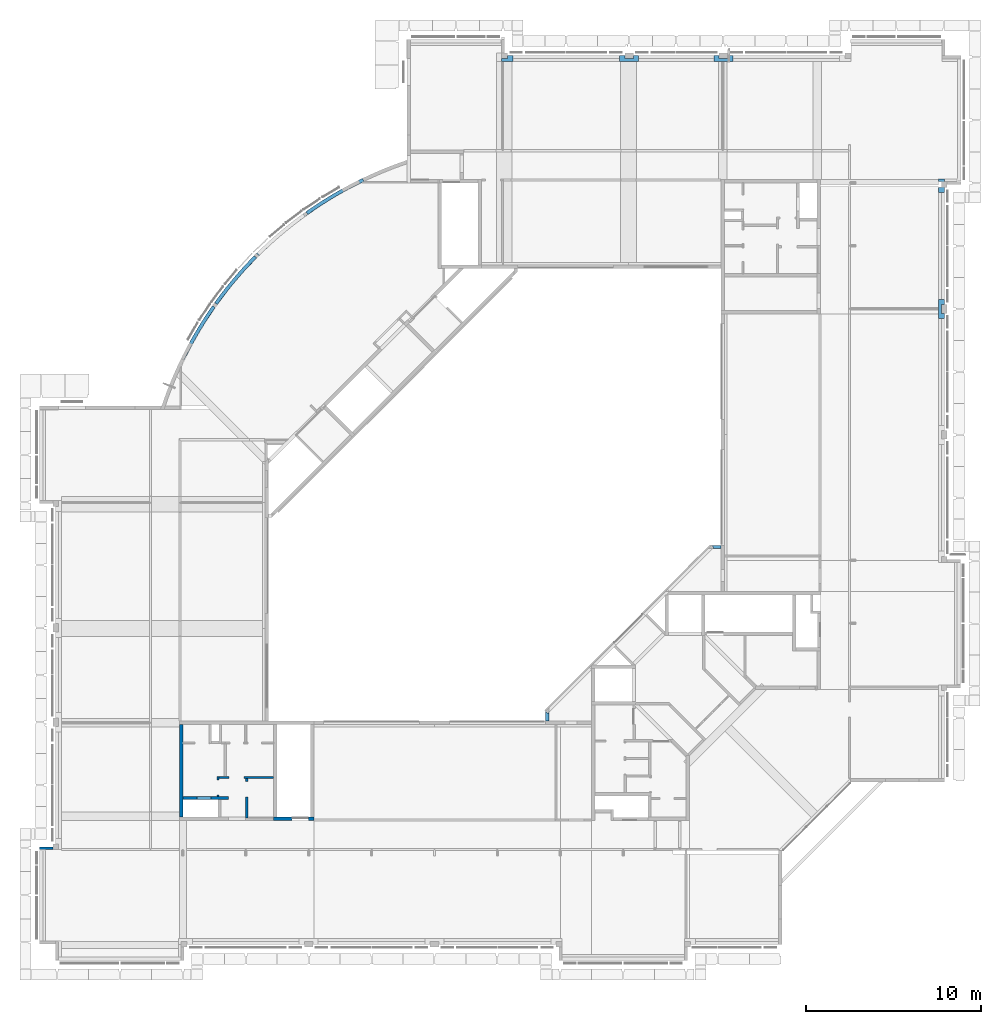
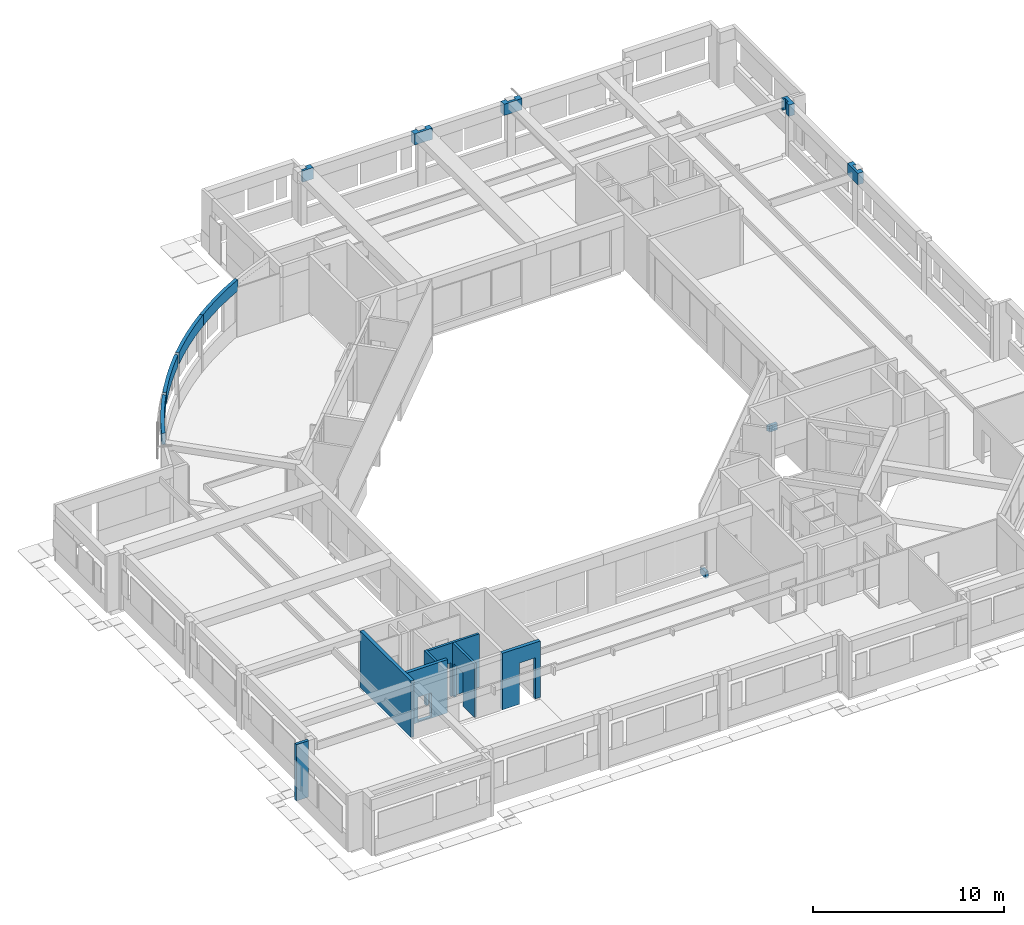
# One storey, part 20 of 26: 11 beams, 7 walls.
"""IFC4X3_ADD2 building model written with IfcOpenShell, lengths in millimetres."""

from ifc_helpers import new_model, si_unit, direction, frame, origin_with_axes, place, context, subcontext, project, spatial, polygons, source, transform, mapped, material, type_object, type_shapes, element, save


model = new_model("IFC4X3_ADD2")

# Units and contexts
model_context = context("Model", 3, precision=1e-05, world=origin_with_axes(), true_north=direction((0.0, 1.0)))
body_context = subcontext(model_context, "Body", "Model", "MODEL_VIEW")
ifc_project = project(units=[si_unit("LENGTHUNIT", "METRE", prefix="MILLI"), si_unit("AREAUNIT", "SQUARE_METRE"), si_unit("VOLUMEUNIT", "CUBIC_METRE"), si_unit("PLANEANGLEUNIT", "RADIAN"), si_unit("TIMEUNIT", "SECOND"), si_unit("MASSUNIT", "GRAM")], contexts=[model_context])

# Site, building, storey
site_placement = place(None, origin_with_axes())
site = spatial("IfcSite", under=ifc_project, at=site_placement, Name="Site", CompositionType="ELEMENT")
building_placement = place(site_placement, origin_with_axes())
building = spatial("IfcBuilding", under=site, at=building_placement, Name="IFC Building Story")
storey_placement = place(building_placement, frame((0.0, 0.0, 7200.0), z_axis=(0.0, 0.0, 1.0), x_axis=(1.0, 0.0, 0.0)))
storey = spatial("IfcBuildingStorey", under=building, at=storey_placement, Name="020", Elevation=7200.0)

# Beams
ifc_material = material(Name="BB_Beton_Bestaand")
beam_type_1 = type_object("IfcBeamType", Name="BB_XX_Betonbalk_ rechthoekig_ center-center_SFB_340 x 720 mm185", PredefinedType="NOTDEFINED")
shared_shape_1 = source(origin_with_axes(), body_context, "Body", "Tessellation", [
    polygons([(640.000000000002, 0.0, 0.0), (640.000000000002, 8.66293703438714e-12, -720.000000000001), (640.000000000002, 340.000000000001, -720.000000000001), (640.000000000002, 340.000000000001, 0.0), (0.0, 8.66293703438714e-12, -720.000000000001), (0.0, 0.0, 0.0), (0.0, 149.999999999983, 0.0), (0.0, 149.999999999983, -720.000000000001), (339.999999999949, 149.999999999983, -720.000000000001), (339.999999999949, 340.000000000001, -720.000000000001), (339.999999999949, 340.000000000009, 0.0), (339.999999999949, 149.999999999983, 0.0)], [[[1, 2, 3, 4]], [[5, 6, 7, 8]], [[2, 1, 6, 5]], [[9, 10, 3]], [[9, 3, 2]], [[2, 5, 8]], [[2, 8, 9]], [[4, 3, 10, 11]], [[12, 7, 6]], [[12, 6, 1]], [[1, 4, 11]], [[1, 11, 12]], [[12, 9, 8, 7]], [[9, 12, 11, 10]]]),
])
type_shapes(beam_type_1, [shared_shape_1])
beam_1_placement = place(storey_placement, frame((-25260.0, 50455.0, 3400.0), z_axis=(0.0, 0.0, 1.0), x_axis=(1.0, 0.0, 0.0)))
element("IfcBeam", 1, at=beam_1_placement, inside=storey, type_object=beam_type_1, material=ifc_material, Name="BB_XX_Betonbalk, rechthoekig, center-center_SFB:340 x 720 mm", ObjectType="BB_XX_Betonbalk, rechthoekig, center-center_SFB:340 x 720 mm", PredefinedType="BEAM", context=body_context, shape_type="MappedRepresentation", body=[
    mapped(shared_shape_1, transform((0.0, 0.0, 0.0))),
])
beam_type_2 = type_object("IfcBeamType", Name="BB_XX_Betonbalk_ rechthoekig_ center-center_SFB_200 x 720 mm29", PredefinedType="NOTDEFINED")
shared_shape_2 = source(origin_with_axes(), body_context, "Body", "Tessellation", [
    polygons([(181.269823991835, 1.59527223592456, 389.999999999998), (181.269823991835, 1.59527223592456, 720.000000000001), (172.286096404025, 5.987610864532, 720.000000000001), (1.5952722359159, 89.442044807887, 720.000000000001), (1.5952722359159, 89.442044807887, 0.0), (181.269823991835, 1.59527223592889, 0.0), (1958.34205439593, 3009.29598788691, 0.0), (1794.70737947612, 3124.29030585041, 0.0), (1794.70737947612, 3124.29030585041, 720.000000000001), (1950.16032064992, 3015.0457037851, 720.000000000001), (1958.34205439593, 3009.29598788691, 720.000000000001), (1958.34205439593, 3009.29598788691, 389.999999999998), (1509.54200965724, 2708.62250681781, 0.0), (1509.54200965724, 2708.62250681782, 720.000000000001), (1233.82007146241, 2286.63148784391, 0.0), (1233.82007146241, 2286.63148784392, 720.000000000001), (967.681717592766, 1858.53175192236, 0.0), (967.681717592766, 1858.53175192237, 720.000000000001), (711.262229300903, 1424.54090717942, 0.0), (711.262229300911, 1424.54090717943, 720.000000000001), (464.691947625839, 984.879556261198, 0.0), (464.691947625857, 984.879556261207, 720.000000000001), (228.096207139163, 539.771184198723, 0.0), (228.096207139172, 539.771184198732, 720.000000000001), (1675.72756658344, 2597.34645068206, 0.0), (1402.47203632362, 2179.13025646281, 0.0), (1138.71436261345, 1754.85998943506, 0.0), (884.588616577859, 1324.751311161, 0.0), (640.223973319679, 889.022850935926, 0.0), (405.744646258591, 447.896094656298, 0.0), (1675.72756658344, 2597.34645068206, 720.000000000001), (1402.47203632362, 2179.13025646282, 720.000000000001), (1138.71436261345, 1754.85998943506, 720.000000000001), (884.588616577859, 1324.751311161, 720.000000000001), (640.223973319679, 889.022850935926, 720.000000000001), (405.744646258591, 447.896094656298, 720.000000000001)], [[[3, 4, 1]], [[1, 2, 3]], [[4, 5, 6]], [[4, 6, 1]], [[12, 7, 10]], [[10, 11, 12]], [[7, 8, 9]], [[7, 9, 10]], [[9, 8, 13, 14]], [[14, 13, 15, 16]], [[16, 15, 17, 18]], [[17, 19, 20, 18]], [[20, 19, 21, 22]], [[22, 21, 23, 24]], [[24, 23, 5, 4]], [[13, 8, 7]], [[13, 7, 25]], [[25, 26, 15]], [[25, 15, 13]], [[26, 27, 17]], [[26, 17, 15]], [[27, 28, 19]], [[27, 19, 17]], [[28, 29, 21]], [[28, 21, 19]], [[29, 30, 23]], [[29, 23, 21]], [[30, 6, 5]], [[30, 5, 23]], [[25, 7, 12]], [[31, 12, 11]], [[26, 25, 12]], [[27, 26, 32, 33]], [[31, 32, 12]], [[32, 26, 12]], [[33, 34, 28, 27]], [[29, 28, 34, 35]], [[30, 29, 1]], [[6, 30, 1]], [[2, 1, 36]], [[35, 36, 1]], [[35, 1, 29]], [[3, 2, 36]], [[36, 24, 4]], [[36, 4, 3]], [[10, 9, 14]], [[10, 14, 31]], [[31, 11, 10]], [[14, 16, 32]], [[14, 32, 31]], [[16, 18, 33]], [[16, 33, 32]], [[18, 20, 34]], [[18, 34, 33]], [[20, 22, 35]], [[20, 35, 34]], [[22, 24, 36]], [[22, 36, 35]]]),
])
type_shapes(beam_type_2, [shared_shape_2])
beam_2_placement = place(storey_placement, frame((-43604.4213722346, 33349.2800897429, 2680.0), z_axis=(0.0, 0.0, 1.0), x_axis=(1.0, 0.0, 0.0)))
element("IfcBeam", 2, at=beam_2_placement, inside=storey, type_object=beam_type_2, material=ifc_material, Name="BB_XX_Betonbalk, rechthoekig, center-center_SFB:200 x 720 mm", ObjectType="BB_XX_Betonbalk, rechthoekig, center-center_SFB:200 x 720 mm", PredefinedType="BEAM", context=body_context, shape_type="MappedRepresentation", body=[
    mapped(shared_shape_2, transform((0.0, 0.0, 0.0))),
])
beam_type_3 = type_object("IfcBeamType", Name="BB_XX_Betonbalk_ rechthoekig_ center-center_SFB_200 x 720 mm31", PredefinedType="NOTDEFINED")
shared_shape_3 = source(origin_with_axes(), body_context, "Body", "Tessellation", [
    polygons([(164.132312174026, 1.59527223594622, 390.000000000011), (164.132312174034, 1.59527223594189, 720.00000000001), (156.005460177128, 7.42230206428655, 720.00000000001), (1.59527223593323, 118.135868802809, 720.000000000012), (1.59527223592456, 118.135868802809, 1.29944055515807e-11), (164.132312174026, 1.59527223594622, 1.08286712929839e-11), (2410.84389704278, 2664.89108166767, 0.0), (2268.58570480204, 2805.47062050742, 0.0), (2268.58570480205, 2805.47062050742, 720.000000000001), (2403.73098743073, 2671.92005860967, 720.000000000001), (2410.84389704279, 2664.89108166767, 720.000000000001), (2410.84389704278, 2664.89108166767, 390.000000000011), (1919.23385026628, 2443.90491202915, 2.16573425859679e-12), (1919.23385026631, 2443.90491202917, 720.000000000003), (1578.10034509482, 2074.57523347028, 4.33146851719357e-12), (1578.10034509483, 2074.57523347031, 720.000000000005), (1245.35768893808, 1697.66834233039, 6.49720277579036e-12), (1245.3576889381, 1697.66834233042, 720.000000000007), (921.174138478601, 1313.37482764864, 8.66293703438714e-12), (921.174138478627, 1313.37482764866, 720.00000000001), (605.713622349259, 921.88901362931, 1.08286712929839e-11), (605.713622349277, 921.889013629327, 720.00000000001), (299.135658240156, 523.408861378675, 1.08286712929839e-11), (299.135658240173, 523.408861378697, 720.000000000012), (2064.61709012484, 2306.55967706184, 2.16573425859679e-12), (1726.53511719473, 1940.53375320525, 2.16573425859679e-12), (1396.76893484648, 1566.99839700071, 4.33146851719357e-12), (1075.48529466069, 1186.14249261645, 6.49720277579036e-12), (762.846658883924, 798.158625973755, 8.66293703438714e-12), (459.01111827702, 403.242987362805, 8.66293703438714e-12), (2064.61709012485, 2306.55967706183, 720.000000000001), (1726.53511719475, 1940.53375320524, 720.000000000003), (1396.7689348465, 1566.99839700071, 720.000000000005), (1075.48529466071, 1186.14249261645, 720.000000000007), (762.846658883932, 798.158625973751, 720.00000000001), (459.011118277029, 403.242987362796, 720.00000000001)], [[[3, 4, 1]], [[1, 2, 3]], [[4, 5, 6]], [[4, 6, 1]], [[12, 7, 10]], [[10, 11, 12]], [[7, 8, 9]], [[7, 9, 10]], [[9, 8, 13, 14]], [[14, 13, 15, 16]], [[16, 15, 17, 18]], [[17, 19, 20, 18]], [[20, 19, 21, 22]], [[22, 21, 23, 24]], [[24, 23, 5, 4]], [[13, 8, 7]], [[13, 7, 25]], [[25, 26, 15]], [[25, 15, 13]], [[26, 27, 17]], [[26, 17, 15]], [[27, 28, 19]], [[27, 19, 17]], [[28, 29, 21]], [[28, 21, 19]], [[29, 30, 23]], [[29, 23, 21]], [[30, 6, 5]], [[30, 5, 23]], [[25, 7, 12]], [[31, 12, 11]], [[26, 25, 12]], [[27, 26, 32, 33]], [[31, 32, 12]], [[32, 26, 12]], [[33, 34, 28, 27]], [[29, 28, 34, 35]], [[30, 29, 1]], [[6, 30, 1]], [[2, 1, 36]], [[35, 36, 1]], [[35, 1, 29]], [[3, 2, 36]], [[36, 24, 4]], [[36, 4, 3]], [[10, 9, 14]], [[10, 14, 31]], [[31, 11, 10]], [[14, 16, 32]], [[14, 32, 31]], [[16, 18, 33]], [[16, 33, 32]], [[18, 20, 34]], [[18, 34, 33]], [[20, 22, 35]], [[20, 35, 34]], [[22, 24, 36]], [[22, 36, 35]]]),
])
type_shapes(beam_type_3, [shared_shape_3])
beam_3_placement = place(storey_placement, frame((-41688.6036734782, 36528.2943880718, 2680.0), z_axis=(0.0, 0.0, 1.0), x_axis=(1.0, 0.0, 0.0)))
element("IfcBeam", 3, at=beam_3_placement, inside=storey, type_object=beam_type_3, material=ifc_material, Name="BB_XX_Betonbalk, rechthoekig, center-center_SFB:200 x 720 mm", ObjectType="BB_XX_Betonbalk, rechthoekig, center-center_SFB:200 x 720 mm", PredefinedType="BEAM", context=body_context, shape_type="MappedRepresentation", body=[
    mapped(shared_shape_3, transform((0.0, 0.0, 0.0))),
])
beam_type_4 = type_object("IfcBeamType", Name="BB_XX_Betonbalk_ rechthoekig_ center-center_SFB_200 x 720 mm33", PredefinedType="NOTDEFINED")
shared_shape_4 = source(origin_with_axes(), body_context, "Body", "Tessellation", [
    polygons([(142.580843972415, 1.59527223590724, 719.999999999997), (1.5952722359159, 143.451074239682, 719.999999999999), (1.5952722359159, 143.451074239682, 0.0), (142.580843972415, 1.5952722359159, -2.16573425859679e-12), (3053.08904093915, 2436.18152332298, 0.0), (2938.37375366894, 2600.01193218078, 0.0), (2938.37375366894, 2600.01193218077, 720.000000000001), (3053.08904093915, 2436.18152332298, 720.000000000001), (2165.34917454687, 2033.66386586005, 0.0), (1417.30317354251, 1434.71118614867, 0.0), (1417.3031735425, 1434.71118614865, 720.000000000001), (2165.34917454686, 2033.66386586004, 720.000000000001), (695.609945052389, 804.254196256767, 0.0), (695.60994505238, 804.25419625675, 719.999999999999), (482.975055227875, 332.72671370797, -2.16573425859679e-12), (2667.02674216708, 2159.6455364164, -2.16573425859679e-12), (2286.97937750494, 1874.89959491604, -2.16573425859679e-12), (1913.12150805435, 1582.07448663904, -2.16573425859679e-12), (1545.62485199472, 1281.30471027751, -2.16573425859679e-12), (1184.65820571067, 972.728413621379, -2.16573425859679e-12), (830.387366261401, 656.487330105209, -2.16573425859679e-12), (2667.02674216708, 2159.6455364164, 719.999999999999), (2286.97937750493, 1874.89959491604, 719.999999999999), (1913.12150805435, 1582.07448663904, 719.999999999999), (1545.62485199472, 1281.30471027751, 719.999999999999), (1184.65820571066, 972.728413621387, 719.999999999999), (830.387366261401, 656.487330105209, 719.999999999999), (482.975055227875, 332.726713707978, 719.999999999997)], [[[1, 2, 3, 4]], [[5, 6, 7, 8]], [[9, 10, 11, 12]], [[9, 12, 7, 6]], [[13, 3, 2, 14]], [[13, 14, 11, 10]], [[15, 4, 3]], [[15, 3, 13]], [[16, 17, 9]], [[9, 6, 5]], [[9, 5, 16]], [[18, 19, 10]], [[18, 10, 9]], [[9, 17, 18]], [[21, 15, 13]], [[13, 10, 20]], [[13, 20, 21]], [[10, 19, 20]], [[17, 16, 22, 23]], [[18, 17, 23, 24]], [[19, 18, 24, 25]], [[8, 22, 16, 5]], [[21, 20, 26, 27]], [[15, 21, 27, 28]], [[4, 15, 28, 1]], [[26, 20, 19, 25]], [[22, 8, 7]], [[7, 12, 23]], [[7, 23, 22]], [[12, 24, 23]], [[12, 11, 25]], [[12, 25, 24]], [[11, 26, 25]], [[11, 14, 27]], [[11, 27, 26]], [[14, 28, 27]], [[14, 2, 1]], [[14, 1, 28]]]),
])
type_shapes(beam_type_4, [shared_shape_4])
beam_4_placement = place(storey_placement, frame((-39279.3458620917, 39332.9885293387, 2680.0), z_axis=(0.0, 0.0, 1.0), x_axis=(1.0, 0.0, 0.0)))
element("IfcBeam", 4, at=beam_4_placement, inside=storey, type_object=beam_type_4, material=ifc_material, Name="BB_XX_Betonbalk, rechthoekig, center-center_SFB:200 x 720 mm", ObjectType="BB_XX_Betonbalk, rechthoekig, center-center_SFB:200 x 720 mm", PredefinedType="BEAM", context=body_context, shape_type="MappedRepresentation", body=[
    mapped(shared_shape_4, transform((0.0, 0.0, 0.0))),
])
beam_type_5 = type_object("IfcBeamType", Name="BB_XX_Betonbalk_ rechthoekig_ center-center_SFB_200 x 720 mm35", PredefinedType="NOTDEFINED")
shared_shape_5 = source(origin_with_axes(), body_context, "Body", "Tessellation", [
    polygons([(117.385991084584, 1.59527223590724, 390.0), (117.385991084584, 1.59527223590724, 720.000000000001), (111.596455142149, 9.7488771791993, 720.000000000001), (1.5952722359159, 164.66737110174, 720.000000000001), (1.5952722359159, 164.66737110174, 0.0), (117.385991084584, 1.59527223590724, 0.0), (3324.56778453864, 1895.00280735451, 0.0), (3237.72512985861, 2075.16482701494, 0.0), (3237.72512985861, 2075.16482701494, 720.000000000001), (3320.22565180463, 1904.01090833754, 720.000000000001), (3324.56778453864, 1895.00280735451, 720.000000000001), (3324.56778453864, 1895.00280735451, 390.0), (2399.25531035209, 1649.0400436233, 0.0), (1579.44916103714, 1188.0282793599, 0.0), (1579.44916103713, 1188.02827935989, 720.000000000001), (2399.25531035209, 1649.04004362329, 720.000000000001), (779.757430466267, 692.945351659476, 0.0), (779.757430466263, 692.945351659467, 720.000000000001), (500.233301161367, 267.427171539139, 0.0), (2906.86212509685, 1688.21633876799, 0.0), (2493.59830624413, 1472.68982636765, 0.0), (2084.95917858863, 1248.51863091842, 0.0), (1681.12554652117, 1015.80193806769, 0.0), (1282.27608821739, 774.642714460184, 0.0), (888.587276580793, 525.147662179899, 0.0), (2906.86212509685, 1688.21633876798, 720.000000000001), (2493.59830624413, 1472.68982636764, 720.000000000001), (2084.95917858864, 1248.51863091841, 720.000000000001), (1681.12554652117, 1015.80193806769, 720.000000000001), (1282.27608821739, 774.642714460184, 720.000000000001), (888.587276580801, 525.147662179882, 720.000000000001), (500.233301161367, 267.427171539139, 720.000000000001)], [[[3, 4, 1]], [[1, 2, 3]], [[4, 5, 6]], [[4, 6, 1]], [[12, 7, 10]], [[10, 11, 12]], [[7, 8, 9]], [[7, 9, 10]], [[13, 14, 15, 16]], [[13, 16, 9, 8]], [[17, 5, 4, 18]], [[17, 18, 15, 14]], [[19, 6, 5]], [[19, 5, 17]], [[20, 21, 13]], [[20, 13, 8]], [[8, 7, 20]], [[22, 23, 14]], [[14, 13, 21]], [[14, 21, 22]], [[25, 19, 17]], [[17, 24, 25]], [[17, 14, 23]], [[17, 23, 24]], [[20, 7, 12]], [[26, 12, 11]], [[22, 21, 27, 28]], [[12, 21, 20]], [[23, 22, 28, 29]], [[26, 27, 12]], [[27, 21, 12]], [[25, 24, 30, 31]], [[1, 6, 19]], [[32, 2, 1]], [[25, 1, 19]], [[1, 25, 31]], [[30, 24, 23, 29]], [[31, 32, 1]], [[10, 9, 16]], [[10, 16, 26]], [[26, 11, 10]], [[16, 27, 26]], [[16, 28, 27]], [[16, 29, 28]], [[16, 30, 29]], [[16, 31, 30]], [[16, 32, 31]], [[16, 3, 32]], [[3, 2, 32]], [[18, 4, 3]], [[3, 15, 18]], [[3, 16, 15]]]),
])
type_shapes(beam_type_5, [shared_shape_5])
beam_5_placement = place(storey_placement, frame((-36462.7908339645, 41683.5609415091, 2680.0), z_axis=(0.0, 0.0, 1.0), x_axis=(1.0, 0.0, 0.0)))
element("IfcBeam", 5, at=beam_5_placement, inside=storey, type_object=beam_type_5, material=ifc_material, Name="BB_XX_Betonbalk, rechthoekig, center-center_SFB:200 x 720 mm", ObjectType="BB_XX_Betonbalk, rechthoekig, center-center_SFB:200 x 720 mm", PredefinedType="BEAM", context=body_context, shape_type="MappedRepresentation", body=[
    mapped(shared_shape_5, transform((0.0, 0.0, 0.0))),
])
beam_type_6 = type_object("IfcBeamType", Name="BB_XX_Betonbalk_ rechthoekig_ center-center_SFB_340 x 720 mm197", PredefinedType="NOTDEFINED")
shared_shape_6 = source(origin_with_axes(), body_context, "Body", "Tessellation", [
    polygons([(0.0, 0.0, 720.000000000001), (0.0, 0.0, 0.0), (340.000000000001, 0.0, 0.0), (340.000000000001, 0.0, 720.000000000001), (1.28590471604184e-12, 790.000000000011, 720.000000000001), (340.000000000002, 790.000000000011, 720.000000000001), (340.000000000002, 790.000000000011, 0.0), (1.28590471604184e-12, 790.000000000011, 0.0), (0.0, 299.869805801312, 720.000000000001), (0.0, 299.869805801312, 0.0), (150.000000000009, 299.869805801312, 0.0), (150.000000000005, 639.869805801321, 0.0), (1.04902753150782e-12, 639.869805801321, 0.0), (340.000000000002, 640.000000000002, 0.0), (340.000000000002, 639.999999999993, 720.000000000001), (1.04902753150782e-12, 639.869805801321, 720.000000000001), (150.000000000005, 639.869805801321, 720.000000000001), (150.000000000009, 299.869805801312, 720.000000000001)], [[[1, 2, 3, 4]], [[5, 6, 7, 8]], [[2, 1, 9, 10]], [[12, 13, 8]], [[14, 3, 11]], [[14, 11, 12]], [[12, 8, 7]], [[12, 7, 14]], [[3, 2, 11]], [[2, 10, 11]], [[14, 7, 6]], [[14, 6, 15]], [[15, 4, 3]], [[15, 3, 14]], [[15, 6, 5]], [[15, 5, 16]], [[18, 9, 1]], [[18, 1, 4]], [[4, 15, 17]], [[4, 17, 18]], [[15, 16, 17]], [[18, 11, 10, 9]], [[11, 18, 17, 12]], [[12, 17, 16, 13]], [[5, 8, 13, 16]]]),
])
type_shapes(beam_type_6, [shared_shape_6])
beam_6_placement = place(storey_placement, frame((-245.0, 42935.0, 2680.0), z_axis=(0.0, 0.0, 1.0), x_axis=(1.0, 0.0, 0.0)))
element("IfcBeam", 6, at=beam_6_placement, inside=storey, type_object=beam_type_6, material=ifc_material, Name="BB_XX_Betonbalk, rechthoekig, center-center_SFB:340 x 720 mm", ObjectType="BB_XX_Betonbalk, rechthoekig, center-center_SFB:340 x 720 mm", PredefinedType="BEAM", context=body_context, shape_type="MappedRepresentation", body=[
    mapped(shared_shape_6, transform((0.0, 0.0, 0.0))),
])
beam_type_7 = type_object("IfcBeamType", Name="BB_XX_Betonbalk_ rechthoekig_ center-center_SFB_340 x 720 mm203", PredefinedType="NOTDEFINED")
shared_shape_7 = source(origin_with_axes(), body_context, "Body", "Tessellation", [
    polygons([(0.0, 4.33146851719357e-12, 720.000000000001), (0.0, 4.33146851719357e-12, 0.0), (340.000000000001, 4.33146851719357e-12, 0.0), (340.000000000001, 4.33146851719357e-12, 720.000000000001), (1.75965908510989e-12, 1090.0, 720.000000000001), (340.000000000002, 1090.0, 720.000000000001), (340.000000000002, 1090.0, 0.0), (1.75965908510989e-12, 1090.0, 0.0), (340.000000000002, 790.000000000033, 0.0), (149.999999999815, 790.000000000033, 0.0), (149.999999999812, 300.000000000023, 0.0), (340.000000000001, 300.000000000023, 0.0), (340.000000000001, 300.000000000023, 720.000000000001), (149.999999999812, 300.000000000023, 720.000000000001), (149.999999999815, 790.000000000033, 720.000000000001), (340.000000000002, 790.000000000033, 720.000000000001)], [[[1, 2, 3, 4]], [[5, 6, 7, 8]], [[2, 1, 5, 8]], [[11, 12, 3]], [[11, 3, 2]], [[2, 8, 10]], [[2, 10, 11]], [[8, 7, 9]], [[8, 9, 10]], [[4, 3, 12, 13]], [[15, 16, 6]], [[15, 6, 5]], [[5, 1, 14]], [[5, 14, 15]], [[1, 4, 13]], [[1, 13, 14]], [[15, 10, 9, 16]], [[11, 14, 13, 12]], [[10, 15, 14, 11]], [[7, 6, 16, 9]]]),
])
type_shapes(beam_type_7, [shared_shape_7])
beam_7_placement = place(storey_placement, frame((-245.0, 35735.0, 2680.0), z_axis=(0.0, 0.0, 1.0), x_axis=(1.0, 0.0, 0.0)))
element("IfcBeam", 7, at=beam_7_placement, inside=storey, type_object=beam_type_7, material=ifc_material, Name="BB_XX_Betonbalk, rechthoekig, center-center_SFB:340 x 720 mm", ObjectType="BB_XX_Betonbalk, rechthoekig, center-center_SFB:340 x 720 mm", PredefinedType="BEAM", context=body_context, shape_type="MappedRepresentation", body=[
    mapped(shared_shape_7, transform((0.0, 0.0, 0.0))),
])
beam_type_8 = type_object("IfcBeamType", Name="BB_XX_Betonbalk_ rechthoekig_ center-center_SFB_340 x 720 mm205", PredefinedType="NOTDEFINED")
shared_shape_8 = source(origin_with_axes(), body_context, "Body", "Tessellation", [
    polygons([(1090.0, 0.0, 0.0), (1090.0, 0.0, -720.000000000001), (1090.0, 340.000000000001, -720.000000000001), (1090.0, 340.000000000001, 0.0), (0.0, 0.0, 0.0), (0.0, 340.000000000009, 0.0), (0.0, 340.000000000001, -720.000000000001), (0.0, 0.0, -720.000000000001), (300.000000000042, 340.000000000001, -720.000000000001), (300.000000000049, 149.999999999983, -720.000000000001), (790.000000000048, 150.0, -720.000000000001), (790.000000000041, 340.000000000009, -720.000000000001), (790.000000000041, 340.000000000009, 0.0), (790.000000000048, 150.0, 0.0), (300.000000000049, 149.999999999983, 0.0), (300.000000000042, 340.000000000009, 0.0)], [[[1, 2, 3, 4]], [[5, 6, 7, 8]], [[2, 1, 5, 8]], [[11, 12, 3]], [[11, 3, 2]], [[2, 8, 10]], [[2, 10, 11]], [[8, 7, 9]], [[8, 9, 10]], [[4, 3, 12, 13]], [[15, 16, 6]], [[15, 6, 5]], [[5, 1, 14]], [[5, 14, 15]], [[1, 4, 13]], [[1, 13, 14]], [[14, 11, 10, 15]], [[15, 10, 9, 16]], [[11, 14, 13, 12]], [[7, 6, 16, 9]]]),
])
type_shapes(beam_type_8, [shared_shape_8])
beam_8_placement = place(storey_placement, frame((-13110.0, 50455.0, 3400.0), z_axis=(0.0, 0.0, 1.0), x_axis=(1.0, 0.0, 0.0)))
element("IfcBeam", 8, at=beam_8_placement, inside=storey, type_object=beam_type_8, material=ifc_material, Name="BB_XX_Betonbalk, rechthoekig, center-center_SFB:340 x 720 mm", ObjectType="BB_XX_Betonbalk, rechthoekig, center-center_SFB:340 x 720 mm", PredefinedType="BEAM", context=body_context, shape_type="MappedRepresentation", body=[
    mapped(shared_shape_8, transform((0.0, 0.0, 0.0))),
])
beam_type_9 = type_object("IfcBeamType", Name="BB_XX_Betonbalk_ rechthoekig_ center-center_SFB_340 x 720 mm207", PredefinedType="NOTDEFINED")
shared_shape_9 = source(origin_with_axes(), body_context, "Body", "Tessellation", [
    polygons([(1090.0, 0.0, 0.0), (1090.0, 0.0, -720.000000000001), (1090.0, 340.000000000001, -720.000000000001), (1090.0, 340.000000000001, 0.0), (0.0, 0.0, 0.0), (0.0, 340.000000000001, 0.0), (0.0, 340.000000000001, -720.000000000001), (0.0, 0.0, -720.000000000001), (300.00000000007, 340.000000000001, -720.000000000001), (300.000000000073, 149.999999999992, -720.000000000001), (790.000000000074, 150.000000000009, -720.000000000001), (790.000000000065, 340.000000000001, -720.000000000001), (790.000000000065, 340.000000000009, 0.0), (790.000000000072, 150.000000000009, 0.0), (300.000000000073, 149.999999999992, 0.0), (300.00000000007, 340.000000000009, 0.0)], [[[1, 2, 3, 4]], [[5, 6, 7, 8]], [[2, 1, 5, 8]], [[11, 12, 3]], [[11, 3, 2]], [[2, 8, 10]], [[2, 10, 11]], [[8, 7, 9]], [[8, 9, 10]], [[4, 3, 12, 13]], [[15, 16, 6]], [[15, 6, 5]], [[5, 1, 14]], [[5, 14, 15]], [[1, 4, 13]], [[1, 13, 14]], [[14, 11, 10, 15]], [[15, 10, 9, 16]], [[11, 14, 13, 12]], [[7, 6, 16, 9]]]),
])
type_shapes(beam_type_9, [shared_shape_9])
beam_9_placement = place(storey_placement, frame((-18510.0, 50455.0, 3400.0), z_axis=(0.0, 0.0, 1.0), x_axis=(1.0, 0.0, 0.0)))
element("IfcBeam", 9, at=beam_9_placement, inside=storey, type_object=beam_type_9, material=ifc_material, Name="BB_XX_Betonbalk, rechthoekig, center-center_SFB:340 x 720 mm", ObjectType="BB_XX_Betonbalk, rechthoekig, center-center_SFB:340 x 720 mm", PredefinedType="BEAM", context=body_context, shape_type="MappedRepresentation", body=[
    mapped(shared_shape_9, transform((0.0, 0.0, 0.0))),
])
beam_type_10 = type_object("IfcBeamType", Name="BB_XX_Betonbalk_ rechthoekig_ center-center_SFB_190 x 400 mm11", PredefinedType="NOTDEFINED")
shared_shape_10 = source(origin_with_axes(), body_context, "Body", "Tessellation", [
    polygons([(0.0, 563.002229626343, 1.08286712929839e-12), (0.0, 563.002229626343, 399.999999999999), (2.77540874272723, 563.002229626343, 399.999999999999), (2.77540874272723, 563.002229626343, 1.08286712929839e-12), (190.0, -2.16573425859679e-12, 399.999999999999), (0.0, -2.16573425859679e-12, 399.999999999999), (0.0, -2.16573425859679e-12, 1.08286712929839e-12), (190.0, -2.16573425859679e-12, 1.08286712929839e-12), (190.0, 485.715395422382, 1.08286712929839e-12), (190.0, 485.715395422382, 399.999999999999), (135.03112147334, 430.746516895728, 1.08286712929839e-12), (135.03112147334, 430.746516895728, 399.999999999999)], [[[1, 2, 3, 4]], [[5, 6, 7, 8]], [[5, 8, 9, 10]], [[11, 9, 8]], [[8, 7, 1]], [[8, 1, 4]], [[8, 4, 11]], [[2, 1, 7, 6]], [[12, 3, 2]], [[12, 2, 6]], [[12, 6, 5]], [[5, 10, 12]], [[12, 11, 4, 3]], [[11, 12, 10, 9]]]),
])
type_shapes(beam_type_10, [shared_shape_10])
beam_10_placement = place(storey_placement, frame((-22744.8526351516, 12695.004065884, -600.0), z_axis=(0.0, 0.0, 1.0), x_axis=(1.0, 0.0, 0.0)))
element("IfcBeam", 10, at=beam_10_placement, inside=storey, type_object=beam_type_10, material=ifc_material, Name="BB_XX_Betonbalk, rechthoekig, center-center_SFB:190 x 400 mm", ObjectType="BB_XX_Betonbalk, rechthoekig, center-center_SFB:190 x 400 mm", PredefinedType="BEAM", context=body_context, shape_type="MappedRepresentation", body=[
    mapped(shared_shape_10, transform((0.0, 0.0, 0.0))),
])
beam_type_11 = type_object("IfcBeamType", Name="BB_XX_Betonbalk_ rechthoekig_ center-center_SFB_190 x 400 mm15", PredefinedType="NOTDEFINED")
shared_shape_11 = source(origin_with_axes(), body_context, "Body", "Tessellation", [
    polygons([(8.66293703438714e-12, 190.0, 399.999999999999), (8.66293703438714e-12, 190.0, 1.08286712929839e-12), (6.49720277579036e-12, 188.415566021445, 1.08286712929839e-12), (8.66293703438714e-12, 188.415566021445, 399.999999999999), (552.100440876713, 190.0, 399.999999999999), (552.100440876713, 0.0, 399.999999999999), (552.100440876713, 0.0, 1.08286712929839e-12), (552.100440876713, 190.0, 1.08286712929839e-12), (76.5283444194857, 0.0, 1.08286712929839e-12), (132.471955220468, 55.9436108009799, 1.08286712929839e-12), (76.5283444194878, 0.0, 399.999999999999), (132.471955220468, 55.9436108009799, 399.999999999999)], [[[1, 2, 3, 4]], [[5, 6, 7, 8]], [[2, 1, 5, 8]], [[10, 3, 2]], [[10, 2, 8]], [[10, 8, 7]], [[7, 9, 10]], [[7, 6, 11, 9]], [[12, 11, 6]], [[6, 5, 1]], [[6, 1, 4]], [[6, 4, 12]], [[12, 10, 9, 11]], [[10, 12, 4, 3]]]),
])
type_shapes(beam_type_11, [shared_shape_11])
beam_11_placement = place(storey_placement, frame((-13247.100440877, 22565.0, -600.0), z_axis=(0.0, 0.0, 1.0), x_axis=(1.0, 0.0, 0.0)))
element("IfcBeam", 11, at=beam_11_placement, inside=storey, type_object=beam_type_11, material=ifc_material, Name="BB_XX_Betonbalk, rechthoekig, center-center_SFB:190 x 400 mm", ObjectType="BB_XX_Betonbalk, rechthoekig, center-center_SFB:190 x 400 mm", PredefinedType="BEAM", context=body_context, shape_type="MappedRepresentation", body=[
    mapped(shared_shape_11, transform((0.0, 0.0, 0.0))),
])

# Walls
wall_1_placement = place(storey_placement, frame((0.0, 0.0, -7200.0), z_axis=(0.0, 0.0, 1.0), x_axis=(1.0, 0.0, 0.0)))
element("IfcWall", 12, at=wall_1_placement, inside=storey, Name="Basic Wall:BB_XX_Wand uit beton, 170 mm", ObjectType="Basic Wall:BB_XX_Wand uit beton, 170 mm", PredefinedType="SOLIDWALL", context=body_context, shape_type="Tessellation", body=[
    polygons([(-51695.0, 5335.0, 6999.999999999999), (-50945.00000000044, 5335.0, 6999.999999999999), (-50945.00000000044, 5335.0, 10600.0), (-51365.00000000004, 5335.0, 10600.0), (-51695.0, 5335.0, 10600.0), (-51695.0, 5505.0, 6999.999999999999), (-51695.0, 5505.0, 10600.0), (-51365.00000000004, 5505.0, 10600.0), (-50945.00000000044, 5505.0, 10600.0), (-50945.00000000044, 5505.0, 6999.999999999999), (-50945.00000000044, 5475.0, 10600.0), (-51695.0, 5475.0, 10600.0), (-51365.00000000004, 5475.0, 10600.0)], [[[4, 5, 1]], [[1, 2, 3]], [[1, 3, 4]], [[8, 9, 10]], [[8, 10, 6]], [[6, 7, 8]], [[2, 1, 6, 10]], [[11, 3, 2]], [[11, 2, 10]], [[10, 9, 11]], [[12, 7, 6]], [[6, 1, 5]], [[6, 5, 12]], [[4, 3, 11, 13]], [[11, 9, 8, 13]], [[5, 4, 13, 12]], [[13, 8, 7, 12]]]),
])
wall_2_placement = place(storey_placement, frame((0.0, 0.0, -7200.0), z_axis=(0.0, 0.0, 1.0), x_axis=(1.0, 0.0, 0.0)))
element("IfcWall", 13, at=wall_2_placement, inside=storey, Name="Basic Wall:BB_XX_Wand uit beton, 200 mm", ObjectType="Basic Wall:BB_XX_Wand uit beton, 200 mm", PredefinedType="SOLIDWALL", context=body_context, shape_type="Tessellation", body=[
    polygons([(-43500.00000000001, 7200.0, 10720.0), (-43500.00000000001, 7200.0, 7120.0), (-43500.00000000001, 12500.00406588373, 7120.0), (-43500.00000000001, 12500.00406588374, 10720.0), (-43700.00000000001, 7200.0, 7120.0), (-43700.00000000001, 7199.999999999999, 10340.0), (-43700.00000000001, 7200.0, 10720.0), (-43700.00000000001, 12500.00406588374, 10720.0), (-43700.00000000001, 12500.00406588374, 7120.0)], [[[1, 2, 3, 4]], [[6, 7, 8]], [[8, 9, 5]], [[8, 5, 6]], [[2, 5, 9, 3]], [[7, 1, 4, 8]], [[6, 5, 2]], [[6, 2, 1]], [[1, 7, 6]], [[4, 3, 9, 8]]]),
])
wall_3_placement = place(storey_placement, frame((0.0, 0.0, -7200.0), z_axis=(0.0, 0.0, 1.0), x_axis=(1.0, 0.0, 0.0)))
element("IfcWall", 14, at=wall_3_placement, inside=storey, Name="Basic Wall:BB_XX_Wand uit beton, 200 mm", ObjectType="Basic Wall:BB_XX_Wand uit beton, 200 mm", PredefinedType="SOLIDWALL", context=body_context, shape_type="Tessellation", body=[
    polygons([(-36000.0, 7200.0, 10720.0), (-36000.0, 7200.0, 7120.0), (-36200.00000000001, 7200.0, 7120.0), (-36300.0, 7200.000000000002, 7120.0), (-36300.0, 7200.000000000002, 9750.000000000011), (-37260.0, 7200.000000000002, 9750.000000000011), (-37260.0, 7200.000000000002, 7120.0), (-38100.00000000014, 7200.0, 7120.0), (-38300.00000000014, 7200.0, 7120.0), (-38300.00000000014, 7200.0, 10720.0), (-38100.00000000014, 7200.0, 10720.0), (-36200.00000000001, 7200.0, 10720.0), (-36000.0, 7000.000000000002, 7120.0), (-36000.0, 7000.000000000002, 10720.0), (-38300.00000000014, 7000.000000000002, 10720.0), (-38300.00000000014, 7000.000000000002, 7120.0), (-37260.0, 7000.0, 7120.0), (-37260.0, 7000.0, 9750.000000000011), (-36300.0, 7000.000000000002, 9750.000000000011), (-36300.0, 7000.000000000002, 7120.0)], [[[8, 9, 10]], [[8, 10, 11]], [[8, 11, 6]], [[6, 7, 8]], [[11, 12, 5]], [[11, 5, 6]], [[12, 3, 4]], [[12, 4, 5]], [[12, 1, 2]], [[12, 2, 3]], [[19, 20, 13]], [[19, 13, 14]], [[14, 15, 18]], [[14, 18, 19]], [[15, 16, 17]], [[15, 17, 18]], [[10, 9, 16, 15]], [[3, 2, 13]], [[3, 13, 20]], [[20, 4, 3]], [[11, 10, 15]], [[15, 14, 12]], [[15, 12, 11]], [[14, 1, 12]], [[5, 4, 20, 19]], [[6, 5, 19, 18]], [[7, 6, 18, 17]], [[8, 7, 17]], [[8, 17, 16]], [[16, 9, 8]], [[1, 14, 13, 2]]]),
])
wall_4_placement = place(storey_placement, frame((0.0, 0.0, -7200.0), z_axis=(0.0, 0.0, 1.0), x_axis=(1.0, 0.0, 0.0)))
element("IfcWall", 15, at=wall_4_placement, inside=storey, Name="Basic Wall:BB_XX_Wand uit metselwerk, 140 mm", ObjectType="Basic Wall:BB_XX_Wand uit metselwerk, 140 mm", PredefinedType="SOLIDWALL", context=body_context, shape_type="Tessellation", body=[
    polygons([(-39770.0, 9400.0, 7120.0), (-39770.0, 9400.0, 10520.0), (-39770.0, 7140.0, 10520.0), (-39770.0, 7140.0, 7120.0), (-39770.0, 8340.0, 7120.0), (-39770.0, 8340.0, 9260.0), (-39770.0, 9250.0, 9260.0), (-39770.0, 9250.0, 7120.0), (-39910.0, 9400.0, 10520.0), (-39910.0, 9400.0, 7120.0), (-39910.0, 9250.0, 7120.0), (-39910.0, 9250.0, 9260.0), (-39910.0, 8340.0, 9260.0), (-39910.0, 8340.0, 7120.0), (-39910.0, 7140.0, 7120.0), (-39910.0, 7140.0, 10520.0)], [[[7, 8, 1]], [[7, 1, 2]], [[2, 6, 7]], [[6, 2, 3]], [[3, 4, 5]], [[3, 5, 6]], [[13, 14, 15]], [[13, 15, 16]], [[16, 9, 13]], [[9, 12, 13]], [[9, 10, 11]], [[9, 11, 12]], [[4, 15, 14, 5]], [[2, 1, 10, 9]], [[3, 2, 9, 16]], [[4, 3, 16, 15]], [[13, 6, 5, 14]], [[7, 12, 11, 8]], [[6, 13, 12, 7]], [[10, 1, 8, 11]]]),
])
wall_5_placement = place(storey_placement, frame((0.0, 0.0, -7200.0), z_axis=(0.0, 0.0, 1.0), x_axis=(1.0, 0.0, 0.0)))
element("IfcWall", 16, at=wall_5_placement, inside=storey, Name="Basic Wall:BB_XX_Wand uit metselwerk, 140 mm", ObjectType="Basic Wall:BB_XX_Wand uit metselwerk, 140 mm", PredefinedType="SOLIDWALL", context=body_context, shape_type="Tessellation", body=[
    polygons([(-41560.0, 8390.0, 7120.0), (-41560.0, 8390.0, 10520.0), (-41560.0, 9539.999999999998, 10520.0), (-41560.0, 9539.999999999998, 7120.0), (-41560.0, 9324.999999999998, 7120.0), (-41560.0, 9324.999999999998, 9260.0), (-41560.0, 8465.0, 9260.0), (-41560.0, 8465.0, 7120.0), (-41420.0, 8390.0, 10520.0), (-41420.0, 8390.0, 7120.0), (-41420.0, 8465.0, 7120.0), (-41420.0, 8465.0, 9260.0), (-41420.0, 9324.999999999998, 9260.0), (-41420.0, 9324.999999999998, 7120.0), (-41420.0, 9539.999999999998, 7120.0), (-41420.0, 9539.999999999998, 10520.0)], [[[7, 8, 1]], [[1, 2, 7]], [[2, 3, 6]], [[2, 6, 7]], [[3, 4, 5]], [[3, 5, 6]], [[13, 14, 15]], [[13, 15, 16]], [[16, 9, 12]], [[16, 12, 13]], [[12, 9, 10]], [[10, 11, 12]], [[4, 15, 14, 5]], [[2, 1, 10, 9]], [[3, 2, 9, 16]], [[4, 3, 16, 15]], [[13, 6, 5, 14]], [[7, 12, 11, 8]], [[6, 13, 12, 7]], [[10, 1, 8, 11]]]),
])
wall_6_placement = place(storey_placement, frame((0.0, 0.0, -7200.0), z_axis=(0.0, 0.0, 1.0), x_axis=(1.0, 0.0, 0.0)))
element("IfcWall", 17, at=wall_6_placement, inside=storey, Name="Basic Wall:BB_XX_Wand uit metselwerk, 140 mm", ObjectType="Basic Wall:BB_XX_Wand uit metselwerk, 140 mm", PredefinedType="SOLIDWALL", context=body_context, shape_type="Tessellation", body=[
    polygons([(-38300.00000000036, 9400.0, 7120.0), (-38300.00000000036, 9400.0, 10520.0), (-41420.0, 9400.0, 10520.0), (-41420.0, 9400.0, 7120.0), (-40870.00000000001, 9400.0, 7120.0), (-40870.0, 9400.0, 9260.0), (-40010.0, 9400.0, 9260.0), (-40010.0, 9400.0, 7120.0), (-38300.00000000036, 9540.0, 10520.0), (-38300.00000000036, 9540.0, 7120.0), (-40010.0, 9540.000000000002, 7120.0), (-40010.0, 9540.000000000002, 9260.0), (-40870.0, 9540.0, 9260.0), (-40870.0, 9540.0, 7120.0), (-41420.00000000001, 9540.0, 7120.0), (-41420.00000000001, 9540.0, 10520.0)], [[[7, 8, 1]], [[7, 1, 2]], [[2, 3, 7]], [[3, 6, 7]], [[3, 4, 5]], [[3, 5, 6]], [[13, 14, 15]], [[13, 15, 16]], [[16, 12, 13]], [[12, 16, 9]], [[9, 10, 11]], [[9, 11, 12]], [[4, 15, 14, 5]], [[2, 1, 10, 9]], [[3, 2, 9, 16]], [[4, 3, 16, 15]], [[7, 12, 11, 8]], [[13, 6, 5, 14]], [[12, 7, 6, 13]], [[10, 1, 8, 11]]]),
])
wall_7_placement = place(storey_placement, frame((0.0, 0.0, -7200.0), z_axis=(0.0, 0.0, 1.0), x_axis=(1.0, 0.0, 0.0)))
element("IfcWall", 18, at=wall_7_placement, inside=storey, Name="Basic Wall:BB_XX_Wand uit metselwerk, 190 mm", ObjectType="Basic Wall:BB_XX_Wand uit metselwerk, 190 mm", PredefinedType="SOLIDWALL", context=body_context, shape_type="Tessellation", body=[
    polygons([(-43500.0, 8199.999999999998, 7120.0), (-40900.00000000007, 8199.999999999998, 7120.0), (-40900.00000000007, 8199.999999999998, 10520.0), (-43500.0, 8199.999999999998, 10520.0), (-41889.99999999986, 8200.0, 8745.0), (-41889.99999999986, 8200.0, 7200.000000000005), (-42699.99999999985, 8200.000000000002, 7200.000000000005), (-42699.99999999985, 8200.000000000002, 8745.0), (-40900.00000000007, 8389.999999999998, 7120.0), (-43500.0, 8389.999999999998, 7120.0), (-43500.0, 8389.999999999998, 10520.0), (-40900.00000000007, 8389.999999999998, 10520.0), (-41889.99999999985, 8390.0, 7200.000000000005), (-41889.99999999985, 8390.0, 8745.0), (-42699.99999999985, 8390.000000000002, 8745.0), (-42699.99999999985, 8390.000000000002, 7200.000000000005)], [[[8, 5, 3]], [[8, 3, 4]], [[4, 1, 8]], [[1, 7, 8]], [[1, 6, 7]], [[1, 2, 6]], [[2, 3, 5]], [[2, 5, 6]], [[16, 13, 9]], [[9, 10, 16]], [[10, 15, 16]], [[15, 10, 11]], [[11, 12, 14]], [[11, 14, 15]], [[12, 9, 13]], [[12, 13, 14]], [[2, 1, 10, 9]], [[3, 2, 9, 12]], [[4, 3, 12, 11]], [[1, 4, 11, 10]], [[5, 14, 13, 6]], [[6, 13, 16, 7]], [[7, 16, 15, 8]], [[14, 5, 8, 15]]]),
])

save(model, "model.ifc")
